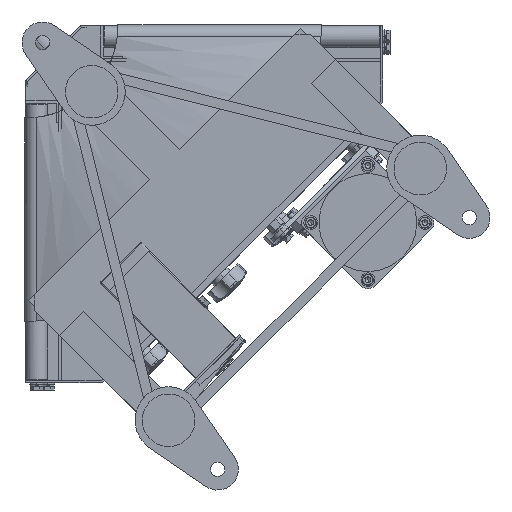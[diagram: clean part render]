
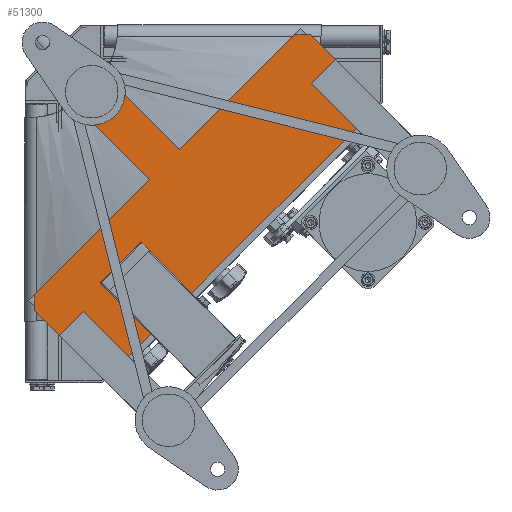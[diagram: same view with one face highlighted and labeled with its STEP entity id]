
A CAD part, front view. The second image highlights one B-rep face of the part: STEP entity #51300.
In plain terms, the highlighted planar face has unit normal (0, -1, 0).
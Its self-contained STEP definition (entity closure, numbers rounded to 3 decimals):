
#439 = CARTESIAN_POINT ( 'NONE',  ( 71.771, -167.5, -322.794 ) ) ;
#560 = VERTEX_POINT ( 'NONE', #26017 ) ;
#1450 = CARTESIAN_POINT ( 'NONE',  ( 259.155, -167.5, -8.132 ) ) ;
#2060 = CARTESIAN_POINT ( 'NONE',  ( 71.771, -167.5, -322.794 ) ) ;
#2805 = CARTESIAN_POINT ( 'NONE',  ( 259.155, -167.5, -8.132 ) ) ;
#3095 = LINE ( 'NONE', #6634, #4317 ) ;
#3725 = ORIENTED_EDGE ( 'NONE', *, *, #23503, .F. ) ;
#4317 = VECTOR ( 'NONE', #42481, 1000. ) ;
#4670 = VERTEX_POINT ( 'NONE', #38146 ) ;
#5056 = ORIENTED_EDGE ( 'NONE', *, *, #19430, .T. ) ;
#5679 = EDGE_CURVE ( 'NONE', #14122, #32213, #27119, .T. ) ;
#5908 = DIRECTION ( 'NONE',  ( 0.707, 0., 0.707 ) ) ;
#6634 = CARTESIAN_POINT ( 'NONE',  ( 12.728, -167.5, -39.598 ) ) ;
#7102 = EDGE_CURVE ( 'NONE', #40200, #4670, #44505, .T. ) ;
#7936 = VECTOR ( 'NONE', #12685, 1000. ) ;
#8239 = EDGE_CURVE ( 'NONE', #20851, #47620, #25645, .T. ) ;
#9127 = PLANE ( 'NONE',  #24561 ) ;
#9458 = CARTESIAN_POINT ( 'NONE',  ( 0., -167.5, 0. ) ) ;
#9475 = DIRECTION ( 'NONE',  ( -0.707, 0., 0.707 ) ) ;
#11563 = CARTESIAN_POINT ( 'NONE',  ( 8.132, -167.5, -259.155 ) ) ;
#12063 = ORIENTED_EDGE ( 'NONE', *, *, #32505, .T. ) ;
#12312 = ORIENTED_EDGE ( 'NONE', *, *, #7102, .T. ) ;
#12685 = DIRECTION ( 'NONE',  ( -0.707, 0., -0.707 ) ) ;
#13436 = VECTOR ( 'NONE', #9475, 1000. ) ;
#14122 = VERTEX_POINT ( 'NONE', #16920 ) ;
#14531 = DIRECTION ( 'NONE',  ( -0.707, 0., -0.707 ) ) ;
#15908 = VECTOR ( 'NONE', #14531, 1000. ) ;
#16500 = CARTESIAN_POINT ( 'NONE',  ( 8.132, -167.5, -245.012 ) ) ;
#16749 = LINE ( 'NONE', #2060, #36672 ) ;
#16920 = CARTESIAN_POINT ( 'NONE',  ( 322.794, -167.5, -71.771 ) ) ;
#17300 = DIRECTION ( 'NONE',  ( 0., 0., -1. ) ) ;
#17597 = VECTOR ( 'NONE', #28955, 1000. ) ;
#18308 = VERTEX_POINT ( 'NONE', #45831 ) ;
#19430 = EDGE_CURVE ( 'NONE', #32213, #36965, #44564, .T. ) ;
#20296 = VECTOR ( 'NONE', #42985, 1000. ) ;
#20851 = VERTEX_POINT ( 'NONE', #25016 ) ;
#21955 = CARTESIAN_POINT ( 'NONE',  ( 245.012, -167.5, -8.132 ) ) ;
#22094 = EDGE_LOOP ( 'NONE', ( #3725, #12063, #12312, #41921, #49036, #37857, #5056, #51307, #36556, #35965 ) ) ;
#22139 = FACE_OUTER_BOUND ( 'NONE', #22094, .T. ) ;
#23014 = DIRECTION ( 'NONE',  ( 0.707, 0., -0.707 ) ) ;
#23503 = EDGE_CURVE ( 'NONE', #18308, #560, #42418, .T. ) ;
#24561 = AXIS2_PLACEMENT_3D ( 'NONE', #9458, #41140, #17300 ) ;
#25016 = CARTESIAN_POINT ( 'NONE',  ( 39.598, -167.5, -12.728 ) ) ;
#25645 = LINE ( 'NONE', #29132, #17597 ) ;
#26017 = CARTESIAN_POINT ( 'NONE',  ( 12.728, -167.5, -39.598 ) ) ;
#26589 = CARTESIAN_POINT ( 'NONE',  ( 245.012, -167.5, -8.132 ) ) ;
#27086 = DIRECTION ( 'NONE',  ( -0.707, 0., 0.707 ) ) ;
#27119 = LINE ( 'NONE', #1450, #13436 ) ;
#27448 = VECTOR ( 'NONE', #27086, 1000. ) ;
#28891 = EDGE_CURVE ( 'NONE', #560, #20851, #3095, .T. ) ;
#28955 = DIRECTION ( 'NONE',  ( 0.707, 0., -0.707 ) ) ;
#29132 = CARTESIAN_POINT ( 'NONE',  ( 39.598, -167.5, -12.728 ) ) ;
#32213 = VERTEX_POINT ( 'NONE', #2805 ) ;
#32505 = EDGE_CURVE ( 'NONE', #18308, #40200, #42191, .T. ) ;
#33314 = LINE ( 'NONE', #37832, #15908 ) ;
#33945 = VECTOR ( 'NONE', #34401, 1000. ) ;
#34401 = DIRECTION ( 'NONE',  ( 0., 0., -1. ) ) ;
#35965 = ORIENTED_EDGE ( 'NONE', *, *, #28891, .F. ) ;
#36556 = ORIENTED_EDGE ( 'NONE', *, *, #8239, .F. ) ;
#36672 = VECTOR ( 'NONE', #5908, 1000. ) ;
#36965 = VERTEX_POINT ( 'NONE', #21955 ) ;
#37832 = CARTESIAN_POINT ( 'NONE',  ( 8.132, -167.5, -245.012 ) ) ;
#37857 = ORIENTED_EDGE ( 'NONE', *, *, #5679, .T. ) ;
#38146 = CARTESIAN_POINT ( 'NONE',  ( 8.132, -167.5, -259.155 ) ) ;
#39114 = LINE ( 'NONE', #11563, #40335 ) ;
#39136 = CARTESIAN_POINT ( 'NONE',  ( 12.728, -167.5, -39.598 ) ) ;
#40200 = VERTEX_POINT ( 'NONE', #46893 ) ;
#40335 = VECTOR ( 'NONE', #23014, 1000. ) ;
#41140 = DIRECTION ( 'NONE',  ( 0., -1., 0. ) ) ;
#41879 = CARTESIAN_POINT ( 'NONE',  ( 8.132, -167.5, -259.155 ) ) ;
#41921 = ORIENTED_EDGE ( 'NONE', *, *, #44561, .T. ) ;
#42191 = LINE ( 'NONE', #16500, #7936 ) ;
#42418 = LINE ( 'NONE', #39136, #27448 ) ;
#42481 = DIRECTION ( 'NONE',  ( 0.707, 0., 0.707 ) ) ;
#42558 = VERTEX_POINT ( 'NONE', #439 ) ;
#42985 = DIRECTION ( 'NONE',  ( -1., 0., 0. ) ) ;
#43751 = EDGE_CURVE ( 'NONE', #42558, #14122, #16749, .T. ) ;
#44505 = LINE ( 'NONE', #41879, #33945 ) ;
#44561 = EDGE_CURVE ( 'NONE', #4670, #42558, #39114, .T. ) ;
#44564 = LINE ( 'NONE', #26589, #20296 ) ;
#45831 = CARTESIAN_POINT ( 'NONE',  ( 113.137, -167.5, -140.007 ) ) ;
#46893 = CARTESIAN_POINT ( 'NONE',  ( 8.132, -167.5, -245.012 ) ) ;
#47326 = CARTESIAN_POINT ( 'NONE',  ( 140.007, -167.5, -113.137 ) ) ;
#47620 = VERTEX_POINT ( 'NONE', #47326 ) ;
#48456 = EDGE_CURVE ( 'NONE', #36965, #47620, #33314, .T. ) ;
#49036 = ORIENTED_EDGE ( 'NONE', *, *, #43751, .T. ) ;
#51300 = ADVANCED_FACE ( 'NONE', ( #22139 ), #9127, .T. ) ;
#51307 = ORIENTED_EDGE ( 'NONE', *, *, #48456, .T. ) ;
